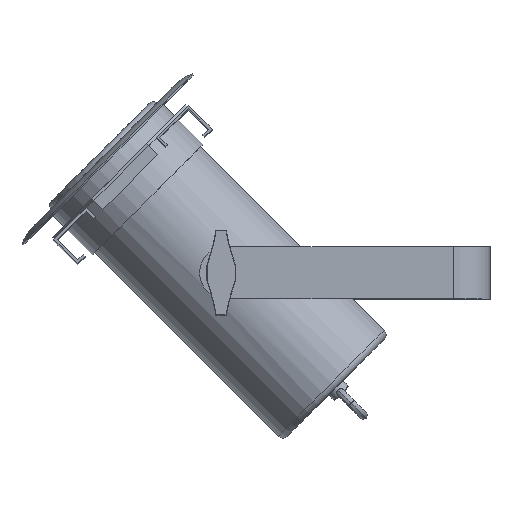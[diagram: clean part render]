
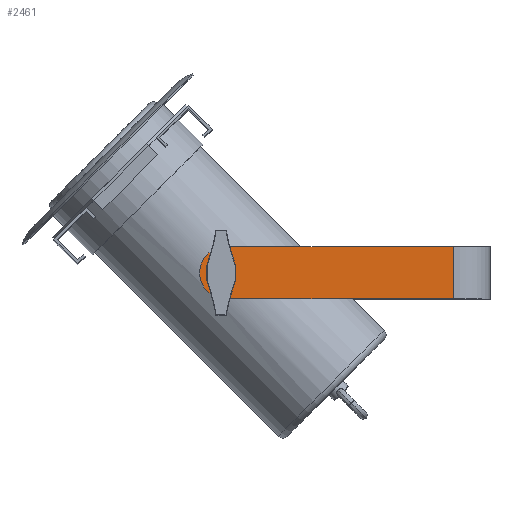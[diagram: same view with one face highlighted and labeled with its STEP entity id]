
A CAD part, top view. The second image highlights one B-rep face of the part: STEP entity #2461.
In plain terms, the highlighted planar face has unit normal (0, 0, 1).
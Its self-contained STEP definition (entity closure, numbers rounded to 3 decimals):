
#99=FACE_BOUND('',#396,.T.);
#133=PLANE('',#2677);
#249=FACE_OUTER_BOUND('',#395,.T.);
#395=EDGE_LOOP('',(#1862,#1863,#1864,#1865));
#396=EDGE_LOOP('',(#1866));
#546=LINE('',#3707,#790);
#560=LINE('',#3750,#804);
#561=LINE('',#3751,#805);
#790=VECTOR('',#2982,40.);
#804=VECTOR('',#3032,175.);
#805=VECTOR('',#3033,175.);
#1019=CIRCLE('',#2646,7.721);
#1035=CIRCLE('',#2678,20.);
#1130=VERTEX_POINT('',#3665);
#1143=VERTEX_POINT('',#3700);
#1145=VERTEX_POINT('',#3706);
#1155=VERTEX_POINT('',#3747);
#1156=VERTEX_POINT('',#3748);
#1382=EDGE_CURVE('',#1130,#1130,#1019,.T.);
#1401=EDGE_CURVE('',#1145,#1143,#546,.T.);
#1422=EDGE_CURVE('',#1155,#1156,#1035,.T.);
#1423=EDGE_CURVE('',#1145,#1155,#560,.T.);
#1424=EDGE_CURVE('',#1143,#1156,#561,.T.);
#1862=ORIENTED_EDGE('',*,*,#1422,.F.);
#1863=ORIENTED_EDGE('',*,*,#1423,.F.);
#1864=ORIENTED_EDGE('',*,*,#1401,.T.);
#1865=ORIENTED_EDGE('',*,*,#1424,.T.);
#1866=ORIENTED_EDGE('',*,*,#1382,.T.);
#2461=ADVANCED_FACE('',(#249,#99),#133,.T.);
#2646=AXIS2_PLACEMENT_3D('',#3667,#2942,#2943);
#2677=AXIS2_PLACEMENT_3D('',#3746,#3028,#3029);
#2678=AXIS2_PLACEMENT_3D('',#3749,#3030,#3031);
#2942=DIRECTION('center_axis',(0.,0.,-1.));
#2943=DIRECTION('ref_axis',(0.,1.,0.));
#2982=DIRECTION('',(0.,1.,0.));
#3028=DIRECTION('center_axis',(0.,0.,1.));
#3029=DIRECTION('ref_axis',(0.,1.,0.));
#3030=DIRECTION('center_axis',(0.,0.,-1.));
#3031=DIRECTION('ref_axis',(0.,-1.,0.));
#3032=DIRECTION('',(-1.,0.,0.));
#3033=DIRECTION('',(-1.,0.,0.));
#3665=CARTESIAN_POINT('',(119.4,-7.721,67.5));
#3667=CARTESIAN_POINT('Origin',(119.4,0.,67.5));
#3700=CARTESIAN_POINT('',(297.9,20.,67.5));
#3706=CARTESIAN_POINT('',(297.9,-20.,67.5));
#3707=CARTESIAN_POINT('',(297.9,-20.,67.5));
#3746=CARTESIAN_POINT('Origin',(325.9,30.,67.5));
#3747=CARTESIAN_POINT('',(122.9,-20.,67.5));
#3748=CARTESIAN_POINT('',(122.9,20.,67.5));
#3749=CARTESIAN_POINT('Origin',(122.9,0.,67.5));
#3750=CARTESIAN_POINT('',(297.9,-20.,67.5));
#3751=CARTESIAN_POINT('',(297.9,20.,67.5));
